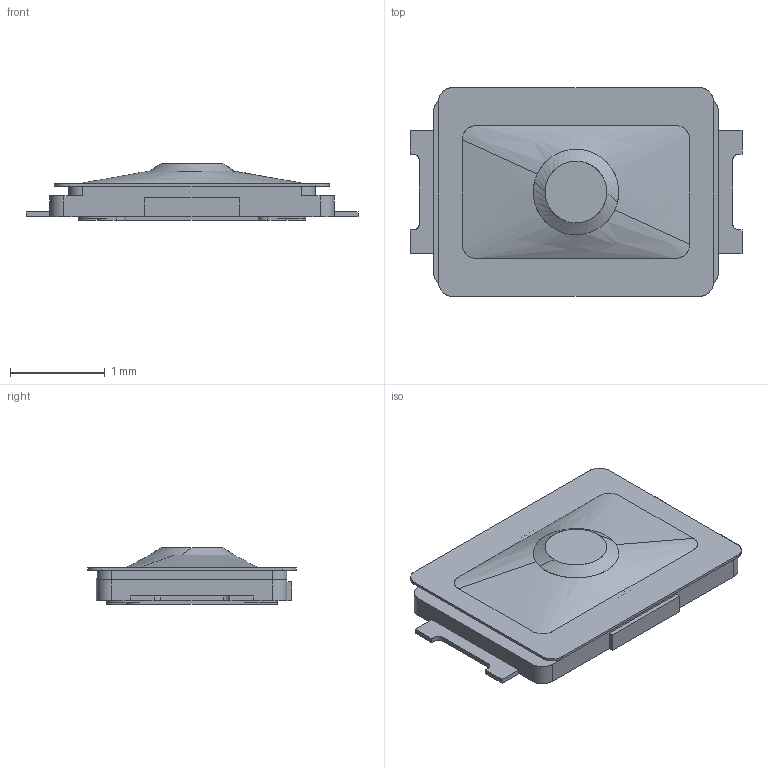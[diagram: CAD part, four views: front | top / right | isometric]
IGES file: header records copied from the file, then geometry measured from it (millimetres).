
Start section: SolidWorks IGES file using analytic representation for surfaces
Global section: file name: 0HC:\Users\研发工作站\Desktop\3020成品.IGS; native system: SolidWorks 2021; preprocessor: SolidWorks 2021; author: 研发工作站,,11,; organization: 0; date: 220811.192541; units: millimetre
Bounding box: 3.5 x 2.2 x 0.6 mm (x, y, z)
Surface area: 56.2 mm2 (no closed solid volume)
Topology: 0 solids, 0 shells, 460 faces, 3430 edges, 3418 vertices
Faces by surface type: bspline 460
